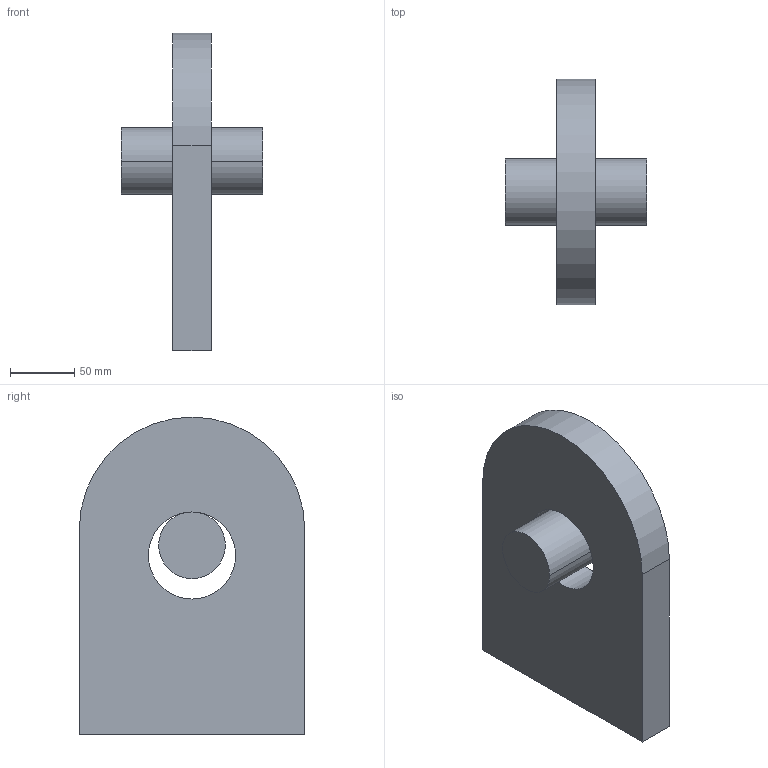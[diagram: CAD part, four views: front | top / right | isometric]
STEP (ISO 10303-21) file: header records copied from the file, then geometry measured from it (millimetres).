
FILE_DESCRIPTION(/* description */ (''),/* implementation_level */ '2;1');
FILE_NAME(/* name */ 'LUG-PIN',/* time_stamp */ '2018-08-24T19:58:02+02:00',/* author */ ('User'),/* organization */ ('Siemens PLM Software'),/* preprocessor_version */ 'ST-DEVELOPER v16.7',/* originating_system */ 'FEMAP 12.0.0',/* authorisation */ $);
FILE_SCHEMA (('CONFIG_CONTROL_DESIGN'));
Length unit declared in the file: millimetre
Products named in the file (3): id3; id6; USKA
Assembly tree (2 placements, depth 2):
  id3
    id6
    USKA
Bounding box: 110 x 176 x 248 mm (x, y, z)
Volume: 1334385.8 mm3; surface area: 125185.1 mm2
Topology: 2 solids, 2 shells, 12 faces, 24 edges, 16 vertices
Faces by surface type: plane 7, cylinder 5
Entity records: 398 total; most frequent: DIRECTION 64, CARTESIAN_POINT 55, ORIENTED_EDGE 48, AXIS2_PLACEMENT_3D 25, EDGE_CURVE 24, VERTEX_POINT 16, LINE 14, VECTOR 14
